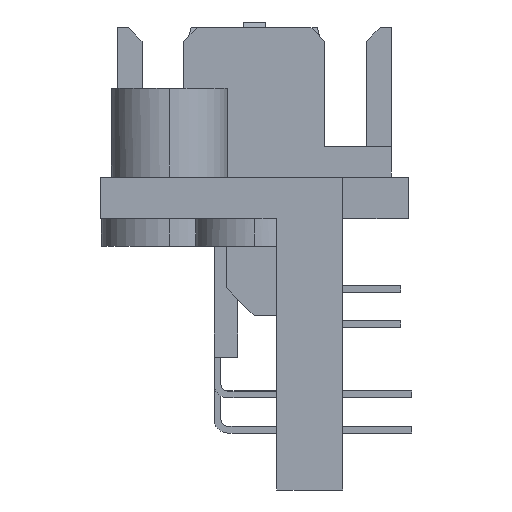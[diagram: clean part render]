
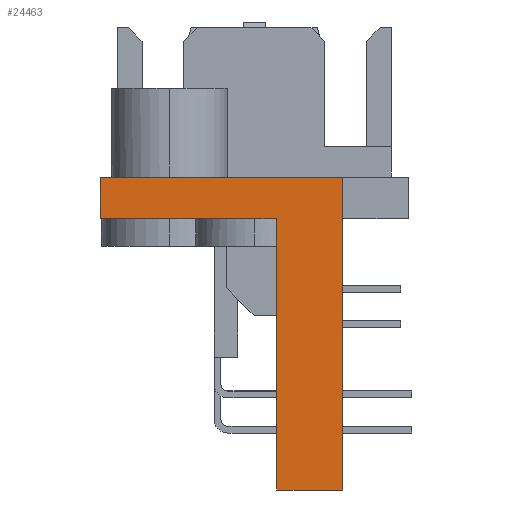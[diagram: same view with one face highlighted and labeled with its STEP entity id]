
A CAD part, left-side view. The second image highlights one B-rep face of the part: STEP entity #24463.
In plain terms, the highlighted planar face has unit normal (-1, 0, 0).
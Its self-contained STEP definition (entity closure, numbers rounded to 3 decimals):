
#441 = DIRECTION ( 'NONE',  ( 0., 0., 1. ) ) ;
#1122 = CARTESIAN_POINT ( 'NONE',  ( -25.825, 3.1, -16.9 ) ) ;
#1480 = EDGE_CURVE ( 'NONE', #32791, #12302, #11614, .T. ) ;
#1608 = EDGE_LOOP ( 'NONE', ( #22622, #22082, #21734, #29689, #27138, #2109, #6957, #29457 ) ) ;
#2109 = ORIENTED_EDGE ( 'NONE', *, *, #26272, .T. ) ;
#2751 = CARTESIAN_POINT ( 'NONE',  ( -25.825, 3.1, -5.6 ) ) ;
#2919 = EDGE_CURVE ( 'NONE', #32422, #32791, #5414, .T. ) ;
#3227 = EDGE_CURVE ( 'NONE', #32143, #21123, #22621, .T. ) ;
#5414 = LINE ( 'NONE', #22883, #25510 ) ;
#5880 = CARTESIAN_POINT ( 'NONE',  ( -25.825, 11.86, 0. ) ) ;
#6485 = AXIS2_PLACEMENT_3D ( 'NONE', #31113, #33760, #18056 ) ;
#6525 = EDGE_CURVE ( 'NONE', #12889, #32143, #25425, .T. ) ;
#6823 = CARTESIAN_POINT ( 'NONE',  ( -25.825, 5.48, -7.1 ) ) ;
#6957 = ORIENTED_EDGE ( 'NONE', *, *, #2919, .T. ) ;
#7180 = DIRECTION ( 'NONE',  ( 0., -1., 0. ) ) ;
#8025 = CARTESIAN_POINT ( 'NONE',  ( -25.825, 5.977, -7.1 ) ) ;
#8192 = VECTOR ( 'NONE', #33435, 1000. ) ;
#8545 = VECTOR ( 'NONE', #16270, 1000. ) ;
#8665 = VECTOR ( 'NONE', #29404, 1000. ) ;
#10771 = VECTOR ( 'NONE', #26860, 1000. ) ;
#10804 = VECTOR ( 'NONE', #441, 1000. ) ;
#11614 = LINE ( 'NONE', #16571, #10804 ) ;
#12199 = CARTESIAN_POINT ( 'NONE',  ( -25.825, 11.86, -5.6 ) ) ;
#12302 = VERTEX_POINT ( 'NONE', #2751 ) ;
#12751 = PLANE ( 'NONE',  #6485 ) ;
#12889 = VERTEX_POINT ( 'NONE', #23699 ) ;
#13612 = CARTESIAN_POINT ( 'NONE',  ( -25.825, 11.86, -7.1 ) ) ;
#13697 = CARTESIAN_POINT ( 'NONE',  ( -25.825, 11.86, -7.1 ) ) ;
#14851 = DIRECTION ( 'NONE',  ( 0., 1., 0. ) ) ;
#15654 = VERTEX_POINT ( 'NONE', #23801 ) ;
#16270 = DIRECTION ( 'NONE',  ( 0., -1., 0. ) ) ;
#16370 = LINE ( 'NONE', #13612, #8545 ) ;
#16571 = CARTESIAN_POINT ( 'NONE',  ( -25.825, 3.1, -16.9 ) ) ;
#18056 = DIRECTION ( 'NONE',  ( 0., 0., 1. ) ) ;
#18454 = VECTOR ( 'NONE', #31137, 1000. ) ;
#19169 = CARTESIAN_POINT ( 'NONE',  ( -25.825, 6.623, -7.1 ) ) ;
#21041 = FACE_OUTER_BOUND ( 'NONE', #1608, .T. ) ;
#21123 = VERTEX_POINT ( 'NONE', #8025 ) ;
#21734 = ORIENTED_EDGE ( 'NONE', *, *, #6525, .T. ) ;
#22082 = ORIENTED_EDGE ( 'NONE', *, *, #33990, .T. ) ;
#22621 = LINE ( 'NONE', #13697, #8665 ) ;
#22622 = ORIENTED_EDGE ( 'NONE', *, *, #24338, .T. ) ;
#22883 = CARTESIAN_POINT ( 'NONE',  ( -25.825, 11.86, -16.9 ) ) ;
#23161 = CARTESIAN_POINT ( 'NONE',  ( -25.825, 5.48, -16.9 ) ) ;
#23699 = CARTESIAN_POINT ( 'NONE',  ( -25.825, 11.86, -7.1 ) ) ;
#23801 = CARTESIAN_POINT ( 'NONE',  ( -25.825, 11.86, -5.6 ) ) ;
#24338 = EDGE_CURVE ( 'NONE', #12302, #15654, #31334, .T. ) ;
#24358 = VECTOR ( 'NONE', #14851, 1000. ) ;
#24463 = ADVANCED_FACE ( 'NONE', ( #21041 ), #12751, .F. ) ;
#24739 = LINE ( 'NONE', #5880, #10771 ) ;
#25425 = LINE ( 'NONE', #33777, #18454 ) ;
#25510 = VECTOR ( 'NONE', #7180, 1000. ) ;
#26181 = VERTEX_POINT ( 'NONE', #6823 ) ;
#26272 = EDGE_CURVE ( 'NONE', #26181, #32422, #29124, .T. ) ;
#26860 = DIRECTION ( 'NONE',  ( 0., 0., -1. ) ) ;
#27138 = ORIENTED_EDGE ( 'NONE', *, *, #30180, .T. ) ;
#29124 = LINE ( 'NONE', #30783, #8192 ) ;
#29404 = DIRECTION ( 'NONE',  ( 0., -1., 0. ) ) ;
#29457 = ORIENTED_EDGE ( 'NONE', *, *, #1480, .T. ) ;
#29689 = ORIENTED_EDGE ( 'NONE', *, *, #3227, .T. ) ;
#30180 = EDGE_CURVE ( 'NONE', #21123, #26181, #16370, .T. ) ;
#30783 = CARTESIAN_POINT ( 'NONE',  ( -25.825, 5.48, -16.9 ) ) ;
#31113 = CARTESIAN_POINT ( 'NONE',  ( -25.825, 11.86, 0. ) ) ;
#31137 = DIRECTION ( 'NONE',  ( 0., -1., 0. ) ) ;
#31334 = LINE ( 'NONE', #12199, #24358 ) ;
#32143 = VERTEX_POINT ( 'NONE', #19169 ) ;
#32422 = VERTEX_POINT ( 'NONE', #23161 ) ;
#32791 = VERTEX_POINT ( 'NONE', #1122 ) ;
#33435 = DIRECTION ( 'NONE',  ( 0., 0., -1. ) ) ;
#33760 = DIRECTION ( 'NONE',  ( 1., 0., 0. ) ) ;
#33777 = CARTESIAN_POINT ( 'NONE',  ( -25.825, 11.86, -7.1 ) ) ;
#33990 = EDGE_CURVE ( 'NONE', #15654, #12889, #24739, .T. ) ;
